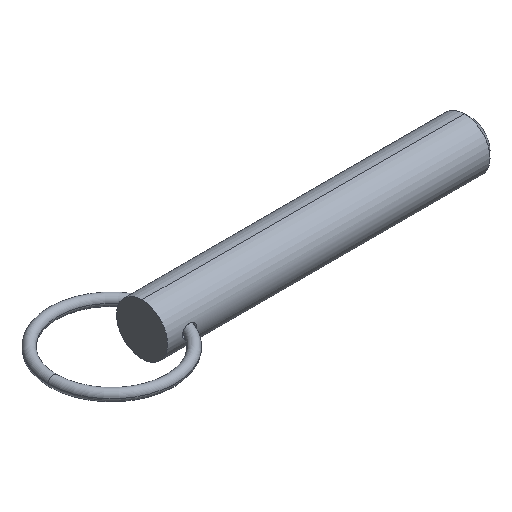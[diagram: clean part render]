
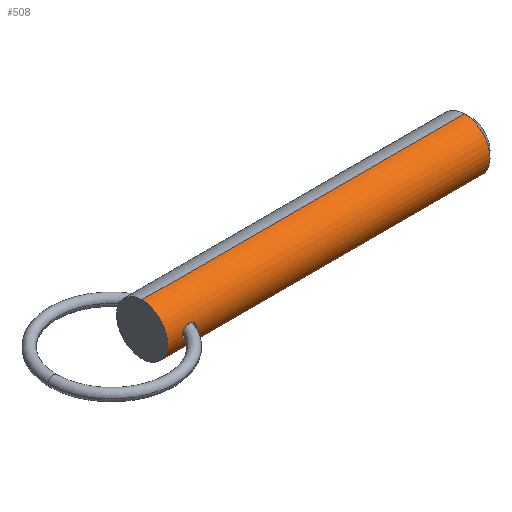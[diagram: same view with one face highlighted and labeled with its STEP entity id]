
A CAD part, isometric view. The second image highlights one B-rep face of the part: STEP entity #508.
In plain terms, the highlighted cylindrical face has radius 5.555 mm (diameter 11.11 mm), a partial arc.
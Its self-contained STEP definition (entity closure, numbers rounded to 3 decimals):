
#16 = VERTEX_POINT ( 'NONE', #58 ) ;
#18 = CARTESIAN_POINT ( 'NONE',  ( 3.269, -5.552, -0.193 ) ) ;
#21 = ORIENTED_EDGE ( 'NONE', *, *, #142, .T. ) ;
#31 = CIRCLE ( 'NONE', #306, 5.555 ) ;
#55 = FACE_OUTER_BOUND ( 'NONE', #300, .T. ) ;
#58 = CARTESIAN_POINT ( 'NONE',  ( 70.031, 0., 5.555 ) ) ;
#63 = CARTESIAN_POINT ( 'NONE',  ( 3.357, -5.536, 0.47 ) ) ;
#65 = AXIS2_PLACEMENT_3D ( 'NONE', #112, #242, #361 ) ;
#67 = CARTESIAN_POINT ( 'NONE',  ( 6.35, -5.555, -0.194 ) ) ;
#75 = CARTESIAN_POINT ( 'NONE',  ( 5.97, -5.472, -0.961 ) ) ;
#91 = CARTESIAN_POINT ( 'NONE',  ( 3.256, -5.555, -0.096 ) ) ;
#108 = CIRCLE ( 'NONE', #65, 5.555 ) ;
#109 = ORIENTED_EDGE ( 'NONE', *, *, #551, .F. ) ;
#112 = CARTESIAN_POINT ( 'NONE',  ( 0., 0., 0. ) ) ;
#114 = CARTESIAN_POINT ( 'NONE',  ( 0., 0., 0. ) ) ;
#122 = ORIENTED_EDGE ( 'NONE', *, *, #843, .T. ) ;
#127 = VERTEX_POINT ( 'NONE', #859 ) ;
#136 = CARTESIAN_POINT ( 'NONE',  ( 4.931, -5.378, -1.391 ) ) ;
#140 = CARTESIAN_POINT ( 'NONE',  ( 6.156, -5.509, 0.738 ) ) ;
#142 = EDGE_CURVE ( 'NONE', #841, #574, #392, .T. ) ;
#144 = DIRECTION ( 'NONE',  ( 1., 0., 0. ) ) ;
#149 = CARTESIAN_POINT ( 'NONE',  ( 6.194, -5.518, -0.65 ) ) ;
#152 = CARTESIAN_POINT ( 'NONE',  ( 6.301, -5.543, 0.381 ) ) ;
#157 = EDGE_CURVE ( 'NONE', #16, #535, #31, .T. ) ;
#180 = EDGE_LOOP ( 'NONE', ( #21, #771 ) ) ;
#198 = B_SPLINE_CURVE_WITH_KNOTS ( 'NONE', 3,
 ( #753, #67, #828, #149, #350, #283, #75, #343, #623, #557, #407, #740, #136, #745, #436, #635, #236, #228, #579, #502, #563, #18, #91, #299 ),
 .UNSPECIFIED., .F., .F.,
 ( 4, 2, 2, 2, 2, 2, 2, 2, 2, 2, 2, 4 ),
 ( 0.005, 0.006, 0.006, 0.006, 0.007, 0.007, 0.008, 0.008, 0.009, 0.009, 0.01, 0.01 ),
 .UNSPECIFIED. ) ;
#199 = CARTESIAN_POINT ( 'NONE',  ( 0., 0., 5.555 ) ) ;
#215 = CARTESIAN_POINT ( 'NONE',  ( 6.35, -5.555, 0. ) ) ;
#218 = CARTESIAN_POINT ( 'NONE',  ( 5.314, -5.391, 1.34 ) ) ;
#228 = CARTESIAN_POINT ( 'NONE',  ( 3.623, -5.489, -0.866 ) ) ;
#236 = CARTESIAN_POINT ( 'NONE',  ( 3.923, -5.445, -1.108 ) ) ;
#242 = DIRECTION ( 'NONE',  ( 1., 0., 0. ) ) ;
#244 = CARTESIAN_POINT ( 'NONE',  ( 6.35, -5.555, 0. ) ) ;
#248 = FACE_BOUND ( 'NONE', #180, .T. ) ;
#254 = CARTESIAN_POINT ( 'NONE',  ( 0., 0., -5.555 ) ) ;
#271 = CARTESIAN_POINT ( 'NONE',  ( 3.924, -5.445, 1.109 ) ) ;
#275 = EDGE_CURVE ( 'NONE', #574, #841, #198, .T. ) ;
#283 = CARTESIAN_POINT ( 'NONE',  ( 6.035, -5.484, -0.889 ) ) ;
#287 = CARTESIAN_POINT ( 'NONE',  ( 4.453, -5.392, 1.339 ) ) ;
#299 = CARTESIAN_POINT ( 'NONE',  ( 3.256, -5.555, 0. ) ) ;
#300 = EDGE_LOOP ( 'NONE', ( #109, #122, #503, #506 ) ) ;
#306 = AXIS2_PLACEMENT_3D ( 'NONE', #874, #144, #809 ) ;
#337 = VECTOR ( 'NONE', #659, 1000. ) ;
#343 = CARTESIAN_POINT ( 'NONE',  ( 5.758, -5.436, -1.152 ) ) ;
#350 = CARTESIAN_POINT ( 'NONE',  ( 6.147, -5.507, -0.733 ) ) ;
#354 = CARTESIAN_POINT ( 'NONE',  ( 5.757, -5.436, 1.153 ) ) ;
#361 = DIRECTION ( 'NONE',  ( 0., 0., -1. ) ) ;
#392 = B_SPLINE_CURVE_WITH_KNOTS ( 'NONE', 3,
 ( #615, #823, #870, #687, #63, #757, #401, #271, #548, #287, #423, #749, #695, #417, #218, #491, #354, #545, #140, #815, #152, #560, #678, #215 ),
 .UNSPECIFIED., .F., .F.,
 ( 4, 2, 2, 2, 2, 2, 2, 2, 2, 2, 2, 4 ),
 ( 0.001, 0.001, 0.001, 0.002, 0.002, 0.003, 0.003, 0.003, 0.004, 0.005, 0.005, 0.005 ),
 .UNSPECIFIED. ) ;
#397 = CARTESIAN_POINT ( 'NONE',  ( 70.031, 0., -5.555 ) ) ;
#401 = CARTESIAN_POINT ( 'NONE',  ( 3.627, -5.488, 0.87 ) ) ;
#407 = CARTESIAN_POINT ( 'NONE',  ( 5.218, -5.385, -1.362 ) ) ;
#417 = CARTESIAN_POINT ( 'NONE',  ( 5.219, -5.385, 1.362 ) ) ;
#423 = CARTESIAN_POINT ( 'NONE',  ( 4.646, -5.381, 1.379 ) ) ;
#436 = CARTESIAN_POINT ( 'NONE',  ( 4.451, -5.392, -1.339 ) ) ;
#446 = CARTESIAN_POINT ( 'NONE',  ( 3.256, -5.555, 0. ) ) ;
#447 = CARTESIAN_POINT ( 'NONE',  ( 0., 0., 5.555 ) ) ;
#491 = CARTESIAN_POINT ( 'NONE',  ( 5.586, -5.413, 1.25 ) ) ;
#502 = CARTESIAN_POINT ( 'NONE',  ( 3.356, -5.536, -0.468 ) ) ;
#503 = ORIENTED_EDGE ( 'NONE', *, *, #578, .T. ) ;
#506 = ORIENTED_EDGE ( 'NONE', *, *, #157, .F. ) ;
#508 = ADVANCED_FACE ( 'NONE', ( #55, #248 ), #795, .T. ) ;
#534 = DIRECTION ( 'NONE',  ( 1., 0., 0. ) ) ;
#535 = VERTEX_POINT ( 'NONE', #397 ) ;
#545 = CARTESIAN_POINT ( 'NONE',  ( 6.04, -5.483, 0.898 ) ) ;
#548 = CARTESIAN_POINT ( 'NONE',  ( 4.095, -5.423, 1.204 ) ) ;
#551 = EDGE_CURVE ( 'NONE', #566, #16, #787, .T. ) ;
#557 = CARTESIAN_POINT ( 'NONE',  ( 5.313, -5.391, -1.341 ) ) ;
#560 = CARTESIAN_POINT ( 'NONE',  ( 6.34, -5.552, 0.193 ) ) ;
#563 = CARTESIAN_POINT ( 'NONE',  ( 3.319, -5.543, -0.379 ) ) ;
#566 = VERTEX_POINT ( 'NONE', #447 ) ;
#574 = VERTEX_POINT ( 'NONE', #244 ) ;
#578 = EDGE_CURVE ( 'NONE', #127, #535, #655, .T. ) ;
#579 = CARTESIAN_POINT ( 'NONE',  ( 3.496, -5.51, -0.722 ) ) ;
#615 = CARTESIAN_POINT ( 'NONE',  ( 3.256, -5.555, 0. ) ) ;
#623 = CARTESIAN_POINT ( 'NONE',  ( 5.587, -5.413, -1.25 ) ) ;
#635 = CARTESIAN_POINT ( 'NONE',  ( 4.089, -5.424, -1.202 ) ) ;
#655 = LINE ( 'NONE', #254, #677 ) ;
#659 = DIRECTION ( 'NONE',  ( 1., 0., 0. ) ) ;
#677 = VECTOR ( 'NONE', #791, 1000. ) ;
#678 = CARTESIAN_POINT ( 'NONE',  ( 6.35, -5.555, 0.097 ) ) ;
#687 = CARTESIAN_POINT ( 'NONE',  ( 3.32, -5.543, 0.38 ) ) ;
#695 = CARTESIAN_POINT ( 'NONE',  ( 5.028, -5.379, 1.387 ) ) ;
#718 = AXIS2_PLACEMENT_3D ( 'NONE', #114, #534, #724 ) ;
#724 = DIRECTION ( 'NONE',  ( 0., 0., -1. ) ) ;
#740 = CARTESIAN_POINT ( 'NONE',  ( 5.027, -5.379, -1.387 ) ) ;
#745 = CARTESIAN_POINT ( 'NONE',  ( 4.641, -5.381, -1.379 ) ) ;
#749 = CARTESIAN_POINT ( 'NONE',  ( 4.932, -5.378, 1.391 ) ) ;
#753 = CARTESIAN_POINT ( 'NONE',  ( 6.35, -5.555, 0. ) ) ;
#757 = CARTESIAN_POINT ( 'NONE',  ( 3.497, -5.51, 0.723 ) ) ;
#771 = ORIENTED_EDGE ( 'NONE', *, *, #275, .T. ) ;
#787 = LINE ( 'NONE', #199, #337 ) ;
#791 = DIRECTION ( 'NONE',  ( 1., 0., 0. ) ) ;
#795 = CYLINDRICAL_SURFACE ( 'NONE', #718, 5.555 ) ;
#809 = DIRECTION ( 'NONE',  ( 0., 0., -1. ) ) ;
#815 = CARTESIAN_POINT ( 'NONE',  ( 6.271, -5.535, 0.475 ) ) ;
#823 = CARTESIAN_POINT ( 'NONE',  ( 3.256, -5.555, 0.096 ) ) ;
#828 = CARTESIAN_POINT ( 'NONE',  ( 6.31, -5.544, -0.386 ) ) ;
#841 = VERTEX_POINT ( 'NONE', #446 ) ;
#843 = EDGE_CURVE ( 'NONE', #566, #127, #108, .T. ) ;
#859 = CARTESIAN_POINT ( 'NONE',  ( 0., 0., -5.555 ) ) ;
#870 = CARTESIAN_POINT ( 'NONE',  ( 3.269, -5.552, 0.194 ) ) ;
#874 = CARTESIAN_POINT ( 'NONE',  ( 70.031, 0., 0. ) ) ;
